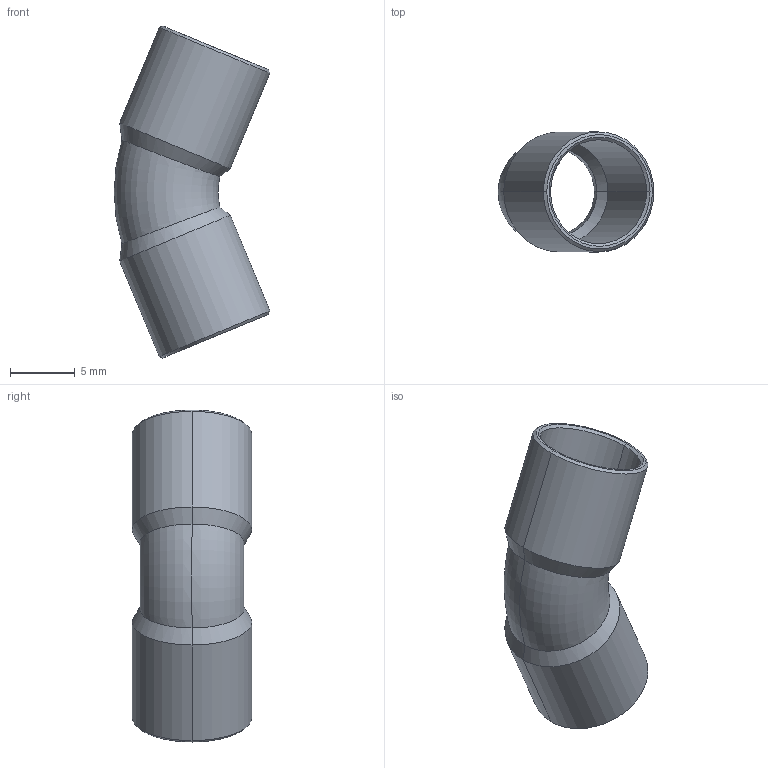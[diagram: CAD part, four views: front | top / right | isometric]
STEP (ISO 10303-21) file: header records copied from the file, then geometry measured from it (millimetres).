
FILE_DESCRIPTION((''),'2;1');
FILE_NAME('P:\Bouwmaten\z-maattekeningen 3D\5000\5040\150418.stp','2005-10-12T14:10:01',('Kris'),(''),'Autodesk Inventor 8','Autodesk Inventor 8','');
FILE_SCHEMA(('AUTOMOTIVE_DESIGN { 1 0 10303 214 1 1 1 1 }'));
Length unit declared in the file: millimetre
Products named in the file (1): 150418
Bounding box: 11.97 x 9.2 x 25.54 mm (x, y, z)
Volume: 370.5 mm3; surface area: 1261.9 mm2
Topology: 1 solids, 1 shells, 30 faces, 60 edges, 32 vertices
Faces by surface type: cone 12, bspline 9, torus 4, cylinder 4, plane 1
Entity records: 1027 total; most frequent: CARTESIAN_POINT 414, DIRECTION 124, ORIENTED_EDGE 120, EDGE_CURVE 60, AXIS2_PLACEMENT_3D 50, VERTEX_POINT 32, EDGE_LOOP 32, FACE_OUTER_BOUND 30
